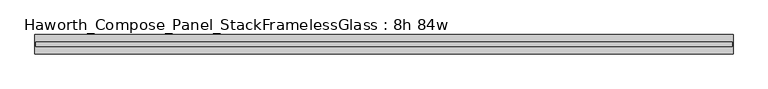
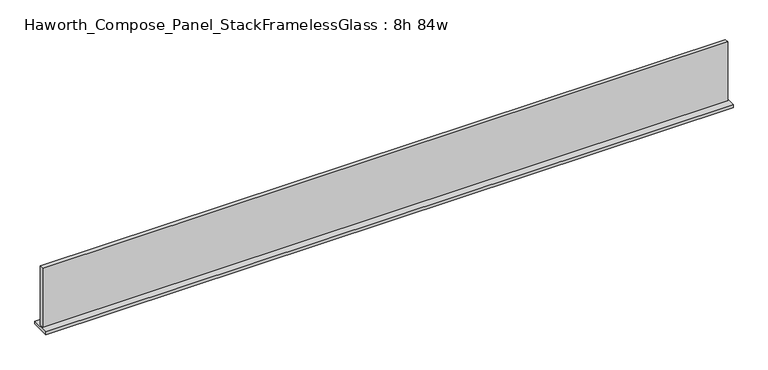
"""IFC4 building model written with IfcOpenShell, lengths in millimetres: furniture geometry, Haworth_Compose_Panel_StackFramelessGlass : 8h 84w."""

from ifc_helpers import new_model, si_unit, frame, origin, place, context, project, spatial, polyline, outline, extrude, source, transform, mapped, element, save


def haworth_compose_panel_stackframelessglass_8h_84w_ccb716e4(model_context):
    return source(origin(), model_context, "Body", "SweptSolid", [
        extrude(outline(polyline([(1066.0652902, 27.3093594), (1066.0652902, 14.6093594), (-1061.1847098, 14.6093594), (-1061.1847098, 27.3093594), (1066.0652902, 27.3093594)])), frame((0.0, 0.0, 1279.525), z_axis=(0.0, 0.0, 1.0), x_axis=(1.0, 0.0, 0.0)), (0.0, 0.0, 1.0), 193.675),
        extrude(outline(polyline([(-1064.3597098, 50.3281094), (1069.2402902, 50.3281094), (1069.2402902, -8.4093906), (-1064.3597098, -8.4093906), (-1064.3597098, 50.3281094)])), frame((0.0, 0.0, 1270.0), z_axis=(0.0, 0.0, 1.0), x_axis=(1.0, 0.0, 0.0)), (0.0, 0.0, 1.0), 9.525),
    ])


if __name__ == "__main__":
    model = new_model("IFC4")
    model_context = context("Model", 3, world=origin())
    ifc_project = project(units=[si_unit("LENGTHUNIT", "METRE", prefix="MILLI")], contexts=[model_context])
    site = spatial("IfcSite", under=ifc_project)
    building = spatial("IfcBuilding", under=site)
    placement = place(None, origin())
    haworth_compose_panel_stackframelessglass_8h_84w_shape = haworth_compose_panel_stackframelessglass_8h_84w_ccb716e4(model_context)
    element("IfcFurniture", 1, ObjectType="Haworth_Compose_Panel_StackFramelessGlass : 8h 84w", at=placement, inside=building, context=model_context, shape_type="MappedRepresentation", body=[
        mapped(haworth_compose_panel_stackframelessglass_8h_84w_shape, transform((0.0, 0.0, 0.0), x_axis=(1.0, 0.0, 0.0), y_axis=(0.0, 1.0, 0.0), z_axis=(0.0, 0.0, 1.0))),
    ])
    save(model, "model.ifc")
